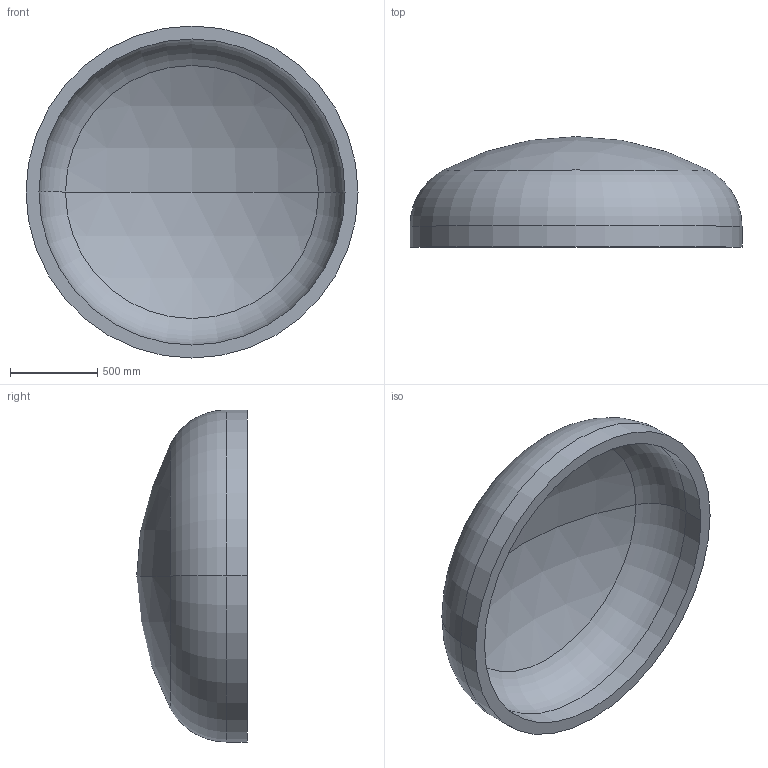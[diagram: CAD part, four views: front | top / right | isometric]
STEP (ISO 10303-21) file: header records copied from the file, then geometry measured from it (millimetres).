
FILE_DESCRIPTION (( 'STEP AP203' ), '1' );
FILE_NAME ('DIN 28013 Korbbogenform_-_Boden DIN 28013 - 1900 x 120 - I - s=74.step', '2016-07-01T13:18:47', ( '' ), ( '' ), 'SwSTEP 2.0', 'SolidWorks 2013', '' );
FILE_SCHEMA (( 'CONFIG_CONTROL_DESIGN' ));
Length unit declared in the file: millimetre
Products named in the file (1): DIN 28013 Korbbogenform_-_Boden DIN 28013 - 1900 x 120 - I - s=74
Bounding box: 1900 x 632.56 x 1900 mm (x, y, z)
Volume: 326716333.3 mm3; surface area: 9266142.1 mm2
Topology: 1 solids, 1 shells, 13 faces, 24 edges, 14 vertices
Faces by surface type: torus 4, cylinder 4, sphere 4, plane 1
Entity records: 407 total; most frequent: DIRECTION 72, CARTESIAN_POINT 52, ORIENTED_EDGE 48, AXIS2_PLACEMENT_3D 34, EDGE_CURVE 24, CIRCLE 20, EDGE_LOOP 14, VERTEX_POINT 14
